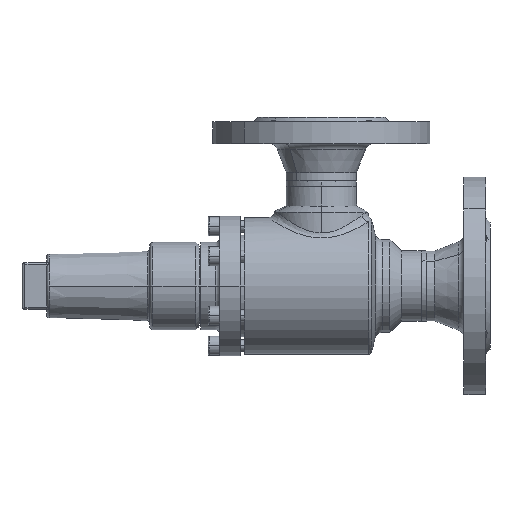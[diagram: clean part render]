
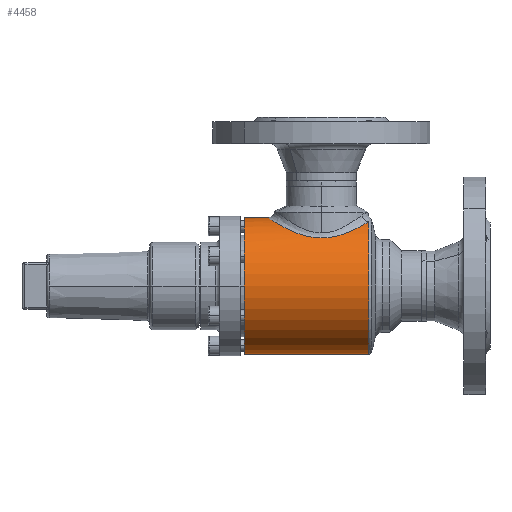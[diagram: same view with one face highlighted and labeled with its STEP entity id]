
A CAD part, left-side view. The second image highlights one B-rep face of the part: STEP entity #4458.
In plain terms, the highlighted cylindrical face has radius 47 mm (diameter 94 mm), a partial arc.
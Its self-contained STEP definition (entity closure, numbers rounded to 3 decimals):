
#544 = EDGE_CURVE ( 'NONE', #13657, #12553, #5482, .T. ) ;
#910 = ORIENTED_EDGE ( 'NONE', *, *, #544, .F. ) ;
#1382 = ORIENTED_EDGE ( 'NONE', *, *, #11691, .T. ) ;
#3982 = EDGE_CURVE ( 'NONE', #8649, #11467, #10527, .T. ) ;
#4255 = EDGE_LOOP ( 'NONE', ( #13764, #11827, #4348, #1382, #910 ) ) ;
#4348 = ORIENTED_EDGE ( 'NONE', *, *, #3982, .T. ) ;
#4458 = ADVANCED_FACE ( 'NONE', ( #11251 ), #11252, .T. ) ;
#5482 = CIRCLE ( 'NONE', #5483, 47. ) ;
#5483 = AXIS2_PLACEMENT_3D ( 'NONE', #5484, #5485, #5486 ) ;
#5484 = CARTESIAN_POINT ( 'NONE',  ( 0., 0., 0. ) ) ;
#5485 = DIRECTION ( 'NONE',  ( 0., 1., 0. ) ) ;
#5486 = DIRECTION ( 'NONE',  ( 0., 0., 1. ) ) ;
#8389 = CARTESIAN_POINT ( 'NONE',  ( 0., -16., 47. ) ) ;
#8447 = CIRCLE ( 'NONE', #8448, 47. ) ;
#8448 = AXIS2_PLACEMENT_3D ( 'NONE', #8449, #8450, #8451 ) ;
#8449 = CARTESIAN_POINT ( 'NONE',  ( 0., -85.446, 0. ) ) ;
#8450 = DIRECTION ( 'NONE',  ( 0., 1., 0. ) ) ;
#8451 = DIRECTION ( 'NONE',  ( 0., 0., -1. ) ) ;
#8483 = LINE ( 'NONE', #8484, #8485 ) ;
#8484 = CARTESIAN_POINT ( 'NONE',  ( 0., -91., 47. ) ) ;
#8485 = VECTOR ( 'NONE', #8486, 1000. ) ;
#8486 = DIRECTION ( 'NONE',  ( 0., 1., 0. ) ) ;
#8649 = VERTEX_POINT ( 'NONE', #10526 ) ;
#9165 = CARTESIAN_POINT ( 'NONE',  ( 0., 0., 47. ) ) ;
#10526 = CARTESIAN_POINT ( 'NONE',  ( -16.073, -85.446, 44.166 ) ) ;
#10527 = B_SPLINE_CURVE_WITH_KNOTS ( 'NONE', 3,
 ( #10528, #10529, #10530, #10531, #10534, #10535, #10536, #10537, #10538, #10539, #10540, #10541, #10542, #10543, #10544, #10545, #10546, #10547, #10548, #10549, #10552, #10553, #10554, #10555, #10556, #10557, #10558, #10559, #10560, #10561, #10562, #10563, #10564, #10565, #10566, #10567, #10573, #10574, #10575, #10576, #10577, #10578, #10579, #10580, #10581, #10582, #10583, #10584, #10585, #10586, #10587, #10588, #10590, #10591, #10592, #10593, #10594, #10595, #10596, #10597, #10598, #10599 ),
 .UNSPECIFIED., .F., .F.,
 ( 4, 2, 2, 2, 2, 2, 2, 2, 2, 2, 2, 2, 2, 2, 2, 2, 2, 2, 2, 2, 2, 2, 2, 2, 2, 2, 2, 2, 2, 2, 4 ),
 ( 0.017, 0.023, 0.026, 0.029, 0.035, 0.039, 0.04, 0.042, 0.048, 0.051, 0.052, 0.054, 0.06, 0.063, 0.066, 0.069, 0.072, 0.078, 0.081, 0.083, 0.084, 0.09, 0.093, 0.095, 0.096, 0.103, 0.106, 0.107, 0.109, 0.112, 0.115 ),
 .UNSPECIFIED. ) ;
#10528 = CARTESIAN_POINT ( 'NONE',  ( -16.073, -85.446, 44.166 ) ) ;
#10529 = CARTESIAN_POINT ( 'NONE',  ( -17.749, -84.43, 43.556 ) ) ;
#10530 = CARTESIAN_POINT ( 'NONE',  ( -19.293, -83.29, 42.887 ) ) ;
#10531 = CARTESIAN_POINT ( 'NONE',  ( -21.444, -81.41, 41.831 ) ) ;
#10534 = CARTESIAN_POINT ( 'NONE',  ( -22.133, -80.755, 41.469 ) ) ;
#10535 = CARTESIAN_POINT ( 'NONE',  ( -23.459, -79.389, 40.734 ) ) ;
#10536 = CARTESIAN_POINT ( 'NONE',  ( -24.096, -78.676, 40.359 ) ) ;
#10537 = CARTESIAN_POINT ( 'NONE',  ( -25.907, -76.48, 39.24 ) ) ;
#10538 = CARTESIAN_POINT ( 'NONE',  ( -26.989, -74.936, 38.497 ) ) ;
#10539 = CARTESIAN_POINT ( 'NONE',  ( -28.44, -72.491, 37.424 ) ) ;
#10540 = CARTESIAN_POINT ( 'NONE',  ( -28.894, -71.655, 37.073 ) ) ;
#10541 = CARTESIAN_POINT ( 'NONE',  ( -29.533, -70.366, 36.563 ) ) ;
#10542 = CARTESIAN_POINT ( 'NONE',  ( -29.739, -69.93, 36.396 ) ) ;
#10543 = CARTESIAN_POINT ( 'NONE',  ( -30.137, -69.047, 36.067 ) ) ;
#10544 = CARTESIAN_POINT ( 'NONE',  ( -30.328, -68.599, 35.906 ) ) ;
#10545 = CARTESIAN_POINT ( 'NONE',  ( -31.243, -66.344, 35.126 ) ) ;
#10546 = CARTESIAN_POINT ( 'NONE',  ( -31.842, -64.482, 34.576 ) ) ;
#10547 = CARTESIAN_POINT ( 'NONE',  ( -32.541, -61.591, 33.914 ) ) ;
#10548 = CARTESIAN_POINT ( 'NONE',  ( -32.74, -60.61, 33.721 ) ) ;
#10549 = CARTESIAN_POINT ( 'NONE',  ( -32.986, -59.111, 33.48 ) ) ;
#10552 = CARTESIAN_POINT ( 'NONE',  ( -33.059, -58.608, 33.408 ) ) ;
#10553 = CARTESIAN_POINT ( 'NONE',  ( -33.186, -57.603, 33.282 ) ) ;
#10554 = CARTESIAN_POINT ( 'NONE',  ( -33.239, -57.1, 33.229 ) ) ;
#10555 = CARTESIAN_POINT ( 'NONE',  ( -33.462, -54.583, 33.006 ) ) ;
#10556 = CARTESIAN_POINT ( 'NONE',  ( -33.49, -52.562, 32.976 ) ) ;
#10557 = CARTESIAN_POINT ( 'NONE',  ( -33.307, -49.52, 33.161 ) ) ;
#10558 = CARTESIAN_POINT ( 'NONE',  ( -33.207, -48.498, 33.262 ) ) ;
#10559 = CARTESIAN_POINT ( 'NONE',  ( -32.933, -46.49, 33.532 ) ) ;
#10560 = CARTESIAN_POINT ( 'NONE',  ( -32.761, -45.501, 33.702 ) ) ;
#10561 = CARTESIAN_POINT ( 'NONE',  ( -32.346, -43.55, 34.1 ) ) ;
#10562 = CARTESIAN_POINT ( 'NONE',  ( -32.103, -42.587, 34.33 ) ) ;
#10563 = CARTESIAN_POINT ( 'NONE',  ( -31.549, -40.688, 34.839 ) ) ;
#10564 = CARTESIAN_POINT ( 'NONE',  ( -31.237, -39.749, 35.121 ) ) ;
#10565 = CARTESIAN_POINT ( 'NONE',  ( -30.211, -37.009, 36.016 ) ) ;
#10566 = CARTESIAN_POINT ( 'NONE',  ( -29.406, -35.272, 36.683 ) ) ;
#10567 = CARTESIAN_POINT ( 'NONE',  ( -28.021, -32.781, 37.738 ) ) ;
#10573 = CARTESIAN_POINT ( 'NONE',  ( -27.529, -31.97, 38.099 ) ) ;
#10574 = CARTESIAN_POINT ( 'NONE',  ( -26.744, -30.781, 38.65 ) ) ;
#10575 = CARTESIAN_POINT ( 'NONE',  ( -26.475, -30.389, 38.835 ) ) ;
#10576 = CARTESIAN_POINT ( 'NONE',  ( -25.92, -29.615, 39.208 ) ) ;
#10577 = CARTESIAN_POINT ( 'NONE',  ( -25.634, -29.233, 39.396 ) ) ;
#10578 = CARTESIAN_POINT ( 'NONE',  ( -24.175, -27.357, 40.33 ) ) ;
#10579 = CARTESIAN_POINT ( 'NONE',  ( -22.902, -25.964, 41.072 ) ) ;
#10580 = CARTESIAN_POINT ( 'NONE',  ( -20.822, -24.029, 42.143 ) ) ;
#10581 = CARTESIAN_POINT ( 'NONE',  ( -20.099, -23.411, 42.494 ) ) ;
#10582 = CARTESIAN_POINT ( 'NONE',  ( -18.969, -22.523, 43.004 ) ) ;
#10583 = CARTESIAN_POINT ( 'NONE',  ( -18.584, -22.235, 43.172 ) ) ;
#10584 = CARTESIAN_POINT ( 'NONE',  ( -17.798, -21.671, 43.502 ) ) ;
#10585 = CARTESIAN_POINT ( 'NONE',  ( -17.396, -21.396, 43.664 ) ) ;
#10586 = CARTESIAN_POINT ( 'NONE',  ( -15.356, -20.064, 44.455 ) ) ;
#10587 = CARTESIAN_POINT ( 'NONE',  ( -13.635, -19.147, 45.018 ) ) ;
#10588 = CARTESIAN_POINT ( 'NONE',  ( -10.906, -18.006, 45.727 ) ) ;
#10590 = CARTESIAN_POINT ( 'NONE',  ( -9.972, -17.666, 45.94 ) ) ;
#10591 = CARTESIAN_POINT ( 'NONE',  ( -8.53, -17.219, 46.222 ) ) ;
#10592 = CARTESIAN_POINT ( 'NONE',  ( -8.041, -17.081, 46.31 ) ) ;
#10593 = CARTESIAN_POINT ( 'NONE',  ( -7.058, -16.829, 46.47 ) ) ;
#10594 = CARTESIAN_POINT ( 'NONE',  ( -6.563, -16.715, 46.542 ) ) ;
#10595 = CARTESIAN_POINT ( 'NONE',  ( -5.066, -16.41, 46.737 ) ) ;
#10596 = CARTESIAN_POINT ( 'NONE',  ( -4.049, -16.255, 46.836 ) ) ;
#10597 = CARTESIAN_POINT ( 'NONE',  ( -2.024, -16.051, 46.967 ) ) ;
#10598 = CARTESIAN_POINT ( 'NONE',  ( -1.011, -16., 47. ) ) ;
#10599 = CARTESIAN_POINT ( 'NONE',  ( 0., -16., 47. ) ) ;
#11144 = CARTESIAN_POINT ( 'NONE',  ( 0., 0., -47. ) ) ;
#11251 = FACE_OUTER_BOUND ( 'NONE', #4255, .T. ) ;
#11252 = CYLINDRICAL_SURFACE ( 'NONE', #11253, 47. ) ;
#11253 = AXIS2_PLACEMENT_3D ( 'NONE', #11254, #11255, #11256 ) ;
#11254 = CARTESIAN_POINT ( 'NONE',  ( 0., -91., 0. ) ) ;
#11255 = DIRECTION ( 'NONE',  ( 0., 1., 0. ) ) ;
#11256 = DIRECTION ( 'NONE',  ( 0., 0., 1. ) ) ;
#11346 = LINE ( 'NONE', #11347, #11348 ) ;
#11347 = CARTESIAN_POINT ( 'NONE',  ( 0., -91., -47. ) ) ;
#11348 = VECTOR ( 'NONE', #11349, 1000. ) ;
#11349 = DIRECTION ( 'NONE',  ( 0., 1., 0. ) ) ;
#11467 = VERTEX_POINT ( 'NONE', #8389 ) ;
#11669 = EDGE_CURVE ( 'NONE', #16081, #8649, #8447, .T. ) ;
#11691 = EDGE_CURVE ( 'NONE', #11467, #12553, #8483, .T. ) ;
#11827 = ORIENTED_EDGE ( 'NONE', *, *, #11669, .T. ) ;
#12553 = VERTEX_POINT ( 'NONE', #9165 ) ;
#13036 = CARTESIAN_POINT ( 'NONE',  ( 0., -85.446, -47. ) ) ;
#13657 = VERTEX_POINT ( 'NONE', #11144 ) ;
#13764 = ORIENTED_EDGE ( 'NONE', *, *, #13875, .F. ) ;
#13875 = EDGE_CURVE ( 'NONE', #16081, #13657, #11346, .T. ) ;
#16081 = VERTEX_POINT ( 'NONE', #13036 ) ;
